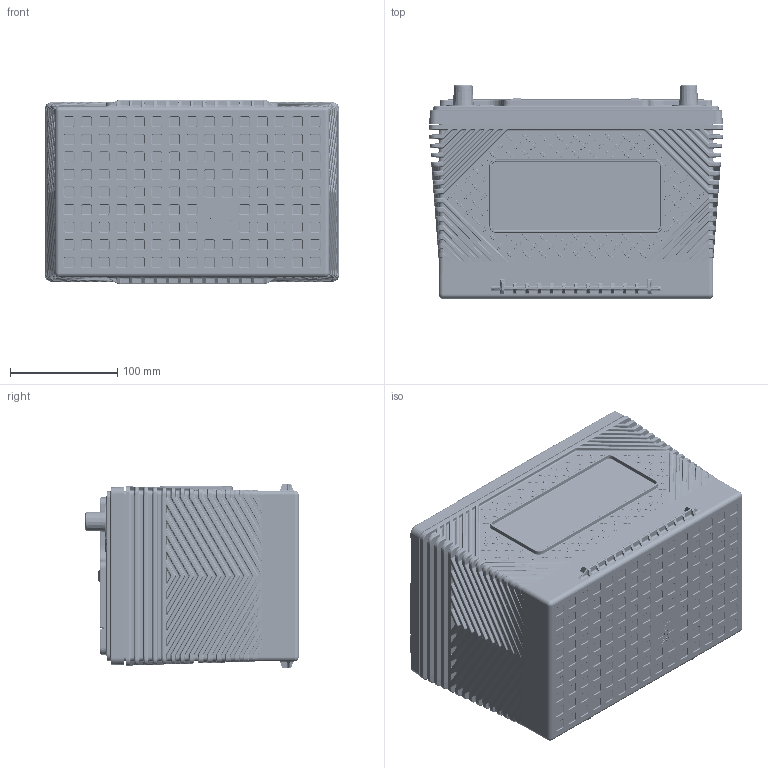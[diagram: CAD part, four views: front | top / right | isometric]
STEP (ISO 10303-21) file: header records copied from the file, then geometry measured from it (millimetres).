
FILE_DESCRIPTION (( 'STEP AP203' ), '1' );
FILE_NAME ('ODP-AGM34.STEP', '2024-03-25T20:45:11', ( '' ), ( '' ), 'SwSTEP 2.0', 'SolidWorks 2022', '' );
FILE_SCHEMA (( 'CONFIG_CONTROL_DESIGN' ));
Products named in the file (1): ODP-AGM34
Bounding box: 274.83 x 199.12 x 171.74 mm (x, y, z)
Volume: 1382690.2 mm3; surface area: 905220.1 mm2
Topology: 10 solids, 10 shells, 15039 faces, 35767 edges, 20672 vertices
Faces by surface type: cylinder 5606, plane 2935, torus 2690, bspline 2483, cone 895, sphere 430
Full cylindrical faces by diameter (mm): 18.059 x6, 18.542 x16, 21.336 x16, 25.4 x4
Entity records: 488585 total; most frequent: CARTESIAN_POINT 162864, ORIENTED_EDGE 70366, DIRECTION 68368, EDGE_CURVE 35183, AXIS2_PLACEMENT_3D 27332, VERTEX_POINT 20634, EDGE_LOOP 15543, FACE_OUTER_BOUND 15105
